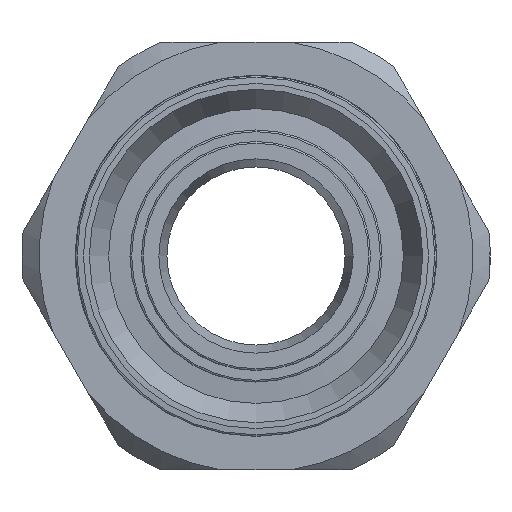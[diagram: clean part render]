
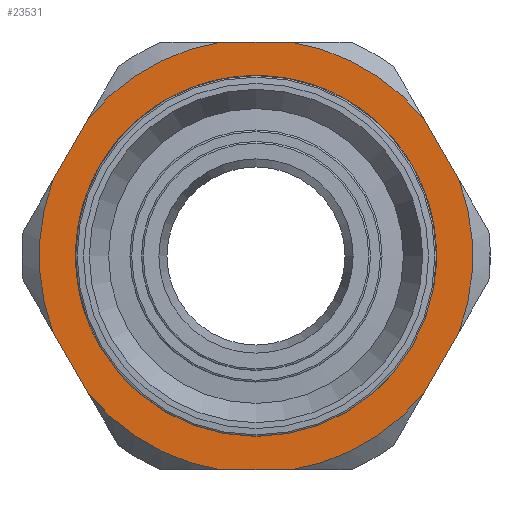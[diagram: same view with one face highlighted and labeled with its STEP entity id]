
A CAD part, left-side view. The second image highlights one B-rep face of the part: STEP entity #23531.
In plain terms, the highlighted planar face has unit normal (-1, 0, 0).
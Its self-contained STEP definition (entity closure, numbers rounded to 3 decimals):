
#68=FACE_BOUND('',#3435,.T.);
#225=PLANE('',#24943);
#1410=CIRCLE('',#24930,18.75);
#1411=CIRCLE('',#24932,18.75);
#1412=CIRCLE('',#24934,18.75);
#1413=CIRCLE('',#24936,18.75);
#1414=CIRCLE('',#24938,18.75);
#1416=CIRCLE('',#24941,18.75);
#1417=CIRCLE('',#24944,13.5);
#1418=CIRCLE('',#24945,13.5);
#2069=FACE_OUTER_BOUND('',#3434,.T.);
#3434=EDGE_LOOP('',(#16023,#16024,#16025,#16026,#16027,#16028,#16029,#16030,
#16031,#16032,#16033,#16034));
#3435=EDGE_LOOP('',(#16035,#16036));
#6465=LINE('',#31577,#8005);
#6468=LINE('',#31599,#8008);
#6471=LINE('',#31621,#8011);
#6474=LINE('',#31643,#8014);
#6477=LINE('',#31665,#8017);
#6480=LINE('',#31687,#8020);
#8005=VECTOR('',#26186,10.);
#8008=VECTOR('',#26191,10.);
#8011=VECTOR('',#26196,10.);
#8014=VECTOR('',#26201,10.);
#8017=VECTOR('',#26206,10.);
#8020=VECTOR('',#26211,10.);
#9564=VERTEX_POINT('',#31572);
#9565=VERTEX_POINT('',#31576);
#9570=VERTEX_POINT('',#31594);
#9571=VERTEX_POINT('',#31598);
#9576=VERTEX_POINT('',#31616);
#9577=VERTEX_POINT('',#31620);
#9582=VERTEX_POINT('',#31638);
#9583=VERTEX_POINT('',#31642);
#9588=VERTEX_POINT('',#31660);
#9589=VERTEX_POINT('',#31664);
#9594=VERTEX_POINT('',#31682);
#9595=VERTEX_POINT('',#31686);
#9598=VERTEX_POINT('',#31734);
#9599=VERTEX_POINT('',#31735);
#12108=EDGE_CURVE('',#9565,#9564,#6465,.T.);
#12115=EDGE_CURVE('',#9571,#9570,#6468,.T.);
#12122=EDGE_CURVE('',#9577,#9576,#6471,.T.);
#12129=EDGE_CURVE('',#9583,#9582,#6474,.T.);
#12136=EDGE_CURVE('',#9589,#9588,#6477,.T.);
#12143=EDGE_CURVE('',#9595,#9594,#6480,.T.);
#12158=EDGE_CURVE('',#9595,#9588,#1410,.T.);
#12159=EDGE_CURVE('',#9589,#9582,#1411,.T.);
#12160=EDGE_CURVE('',#9583,#9576,#1412,.T.);
#12161=EDGE_CURVE('',#9577,#9570,#1413,.T.);
#12162=EDGE_CURVE('',#9565,#9594,#1414,.T.);
#12164=EDGE_CURVE('',#9571,#9564,#1416,.T.);
#12165=EDGE_CURVE('',#9598,#9599,#1417,.T.);
#12166=EDGE_CURVE('',#9599,#9598,#1418,.T.);
#16023=ORIENTED_EDGE('',*,*,#12108,.T.);
#16024=ORIENTED_EDGE('',*,*,#12164,.F.);
#16025=ORIENTED_EDGE('',*,*,#12115,.T.);
#16026=ORIENTED_EDGE('',*,*,#12161,.F.);
#16027=ORIENTED_EDGE('',*,*,#12122,.T.);
#16028=ORIENTED_EDGE('',*,*,#12160,.F.);
#16029=ORIENTED_EDGE('',*,*,#12129,.T.);
#16030=ORIENTED_EDGE('',*,*,#12159,.F.);
#16031=ORIENTED_EDGE('',*,*,#12136,.T.);
#16032=ORIENTED_EDGE('',*,*,#12158,.F.);
#16033=ORIENTED_EDGE('',*,*,#12143,.T.);
#16034=ORIENTED_EDGE('',*,*,#12162,.F.);
#16035=ORIENTED_EDGE('',*,*,#12165,.T.);
#16036=ORIENTED_EDGE('',*,*,#12166,.T.);
#23531=ADVANCED_FACE('',(#2069,#68),#225,.T.);
#24930=AXIS2_PLACEMENT_3D('',#31720,#26259,#26260);
#24932=AXIS2_PLACEMENT_3D('',#31722,#26263,#26264);
#24934=AXIS2_PLACEMENT_3D('',#31724,#26267,#26268);
#24936=AXIS2_PLACEMENT_3D('',#31726,#26271,#26272);
#24938=AXIS2_PLACEMENT_3D('',#31728,#26275,#26276);
#24941=AXIS2_PLACEMENT_3D('',#31731,#26281,#26282);
#24943=AXIS2_PLACEMENT_3D('',#31733,#26285,#26286);
#24944=AXIS2_PLACEMENT_3D('',#31736,#26287,#26288);
#24945=AXIS2_PLACEMENT_3D('',#31737,#26289,#26290);
#26186=DIRECTION('',(0.,-1.,0.));
#26191=DIRECTION('',(0.,-0.5,0.866));
#26196=DIRECTION('',(0.,0.5,0.866));
#26201=DIRECTION('',(0.,1.,0.));
#26206=DIRECTION('',(0.,0.5,-0.866));
#26211=DIRECTION('',(0.,-0.5,-0.866));
#26259=DIRECTION('center_axis',(1.,0.,0.));
#26260=DIRECTION('ref_axis',(0.,-1.,0.));
#26263=DIRECTION('center_axis',(1.,0.,0.));
#26264=DIRECTION('ref_axis',(0.,-1.,0.));
#26267=DIRECTION('center_axis',(1.,0.,0.));
#26268=DIRECTION('ref_axis',(0.,-1.,0.));
#26271=DIRECTION('center_axis',(1.,0.,0.));
#26272=DIRECTION('ref_axis',(0.,-1.,0.));
#26275=DIRECTION('center_axis',(1.,0.,0.));
#26276=DIRECTION('ref_axis',(0.,-1.,0.));
#26281=DIRECTION('center_axis',(1.,0.,0.));
#26282=DIRECTION('ref_axis',(0.,-1.,0.));
#26285=DIRECTION('center_axis',(-1.,0.,0.));
#26286=DIRECTION('ref_axis',(0.,0.,1.));
#26287=DIRECTION('center_axis',(1.,0.,0.));
#26288=DIRECTION('ref_axis',(0.,0.,-1.));
#26289=DIRECTION('center_axis',(1.,0.,0.));
#26290=DIRECTION('ref_axis',(0.,0.,-1.));
#31572=CARTESIAN_POINT('',(19.1,-3.052,-18.5));
#31576=CARTESIAN_POINT('',(19.1,3.052,-18.5));
#31577=CARTESIAN_POINT('',(19.1,4.785,-18.5));
#31594=CARTESIAN_POINT('',(19.1,-17.547,-6.607));
#31598=CARTESIAN_POINT('',(19.1,-14.496,-11.893));
#31599=CARTESIAN_POINT('',(19.1,-16.16,-9.009));
#31616=CARTESIAN_POINT('',(19.1,-14.496,11.893));
#31620=CARTESIAN_POINT('',(19.1,-17.547,6.607));
#31621=CARTESIAN_POINT('',(19.1,-10.82,18.259));
#31638=CARTESIAN_POINT('',(19.1,3.052,18.5));
#31642=CARTESIAN_POINT('',(19.1,-3.052,18.5));
#31643=CARTESIAN_POINT('',(19.1,15.465,18.5));
#31660=CARTESIAN_POINT('',(19.1,17.547,6.607));
#31664=CARTESIAN_POINT('',(19.1,14.496,11.893));
#31665=CARTESIAN_POINT('',(19.1,21.223,0.241));
#31682=CARTESIAN_POINT('',(19.1,14.496,-11.893));
#31686=CARTESIAN_POINT('',(19.1,17.547,-6.607));
#31687=CARTESIAN_POINT('',(19.1,15.882,-9.491));
#31720=CARTESIAN_POINT('Origin',(19.1,0.,0.));
#31722=CARTESIAN_POINT('Origin',(19.1,0.,0.));
#31724=CARTESIAN_POINT('Origin',(19.1,0.,0.));
#31726=CARTESIAN_POINT('Origin',(19.1,0.,0.));
#31728=CARTESIAN_POINT('Origin',(19.1,0.,0.));
#31731=CARTESIAN_POINT('Origin',(19.1,0.,0.));
#31733=CARTESIAN_POINT('Origin',(19.1,20.25,0.));
#31734=CARTESIAN_POINT('',(19.1,13.5,0.));
#31735=CARTESIAN_POINT('',(19.1,-13.5,0.));
#31736=CARTESIAN_POINT('Origin',(19.1,0.,0.));
#31737=CARTESIAN_POINT('Origin',(19.1,0.,0.));
